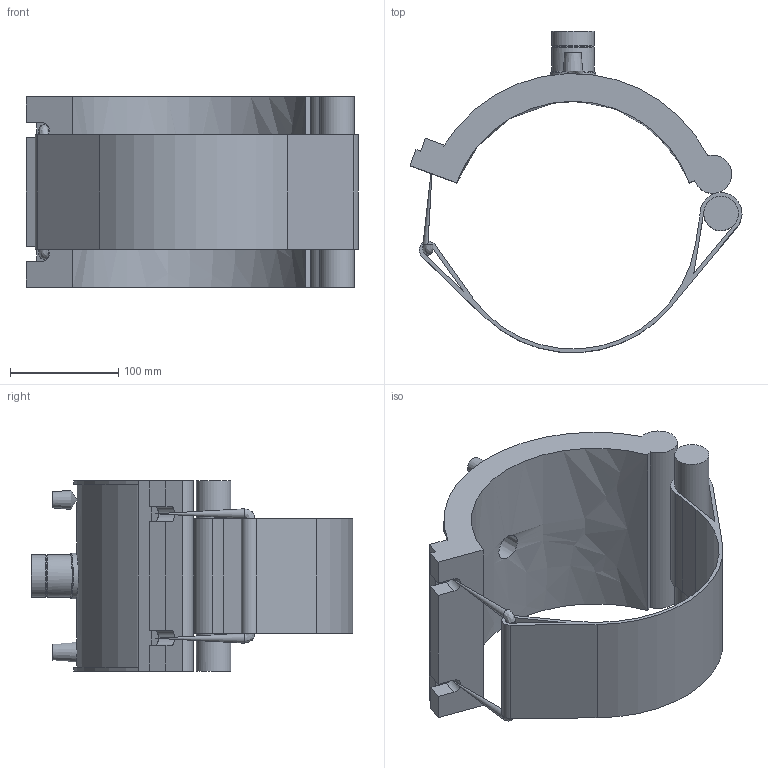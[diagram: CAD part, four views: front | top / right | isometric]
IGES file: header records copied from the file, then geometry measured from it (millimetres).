
Global section: file name: 5938D00308060.ipt; native system: Autodesk Inventor 2019; preprocessor: unknown; author: KIM; date: 20210830.101144; units: inch
Bounding box: 306.75 x 296.96 x 176.02 mm (x, y, z)
Volume: 1854323.2 mm3; surface area: 306748.3 mm2
Topology: 2 solids, 3 shells, 78 faces, 192 edges, 126 vertices
Faces by surface type: plane 42, cylinder 19, revolution 11, cone 5, bspline 1
Full cylindrical faces by diameter (mm): 4 x2, 9.156 x2, 31.87 x1, 38.378 x1, 39.378 x2, 42.407 x1
